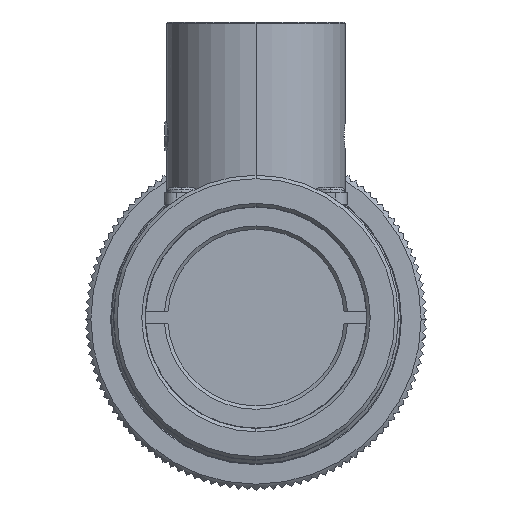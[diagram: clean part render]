
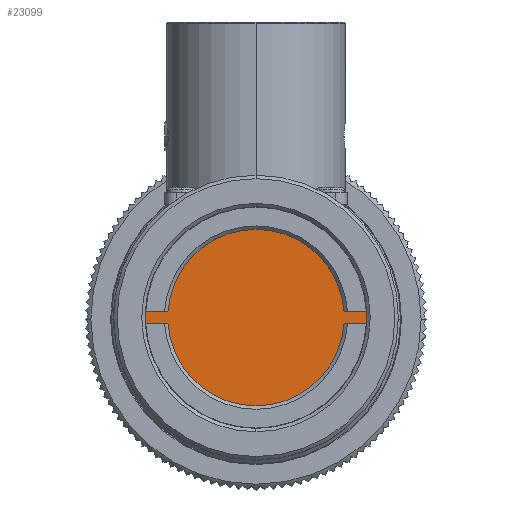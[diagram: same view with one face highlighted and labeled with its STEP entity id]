
A CAD part, top view. The second image highlights one B-rep face of the part: STEP entity #23099.
In plain terms, the highlighted planar face has unit normal (0, 0, 1).
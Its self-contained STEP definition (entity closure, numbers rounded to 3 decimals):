
#2927 = CARTESIAN_POINT ( 'NONE',  ( 9.716, -0.5, 39.397 ) ) ;
#3017 = AXIS2_PLACEMENT_3D ( 'NONE', #3065, #3099, #3098 ) ;
#3065 = CARTESIAN_POINT ( 'NONE',  ( 0., 0., 39.397 ) ) ;
#3098 = DIRECTION ( 'NONE',  ( 1., 0., 0. ) ) ;
#3099 = DIRECTION ( 'NONE',  ( 0., 0., -1. ) ) ;
#3111 = CIRCLE ( 'NONE', #3017, 9.729 ) ;
#3188 = CARTESIAN_POINT ( 'NONE',  ( 9.716, 0.5, 39.397 ) ) ;
#3853 = LINE ( 'NONE', #3901, #3900 ) ;
#3868 = CARTESIAN_POINT ( 'NONE',  ( -9.716, 0.5, 39.397 ) ) ;
#3899 = DIRECTION ( 'NONE',  ( -1., 0., 0. ) ) ;
#3900 = VECTOR ( 'NONE', #3899, 1000. ) ;
#3901 = CARTESIAN_POINT ( 'NONE',  ( -10., -0.5, 39.397 ) ) ;
#3908 = CARTESIAN_POINT ( 'NONE',  ( -7.734, 0.5, 39.397 ) ) ;
#3925 = LINE ( 'NONE', #3960, #3959 ) ;
#3958 = DIRECTION ( 'NONE',  ( 1., 0., 0. ) ) ;
#3959 = VECTOR ( 'NONE', #3958, 1000. ) ;
#3960 = CARTESIAN_POINT ( 'NONE',  ( -10., 0.5, 39.397 ) ) ;
#3969 = CARTESIAN_POINT ( 'NONE',  ( -10., -0.5, 39.397 ) ) ;
#3987 = CARTESIAN_POINT ( 'NONE',  ( 7.734, 0.5, 39.397 ) ) ;
#3993 = DIRECTION ( 'NONE',  ( -1., 0., 0. ) ) ;
#3994 = VECTOR ( 'NONE', #3993, 1000. ) ;
#3995 = LINE ( 'NONE', #3969, #3994 ) ;
#4006 = CARTESIAN_POINT ( 'NONE',  ( -7.734, -0.5, 39.397 ) ) ;
#4008 = CARTESIAN_POINT ( 'NONE',  ( -9.716, -0.5, 39.397 ) ) ;
#4019 = CARTESIAN_POINT ( 'NONE',  ( -10., 0.5, 39.397 ) ) ;
#4038 = CARTESIAN_POINT ( 'NONE',  ( 7.734, -0.5, 39.397 ) ) ;
#4044 = CIRCLE ( 'NONE', #4101, 9.729 ) ;
#4055 = DIRECTION ( 'NONE',  ( 1., 0., 0. ) ) ;
#4056 = VECTOR ( 'NONE', #4055, 1000. ) ;
#4057 = LINE ( 'NONE', #4019, #4056 ) ;
#4070 = CIRCLE ( 'NONE', #4087, 7.75 ) ;
#4073 = DIRECTION ( 'NONE',  ( 1., 0., 0. ) ) ;
#4074 = DIRECTION ( 'NONE',  ( 0., 0., 1. ) ) ;
#4075 = CARTESIAN_POINT ( 'NONE',  ( 0., 0., 39.397 ) ) ;
#4076 = AXIS2_PLACEMENT_3D ( 'NONE', #4075, #4074, #4073 ) ;
#4077 = CIRCLE ( 'NONE', #4076, 7.75 ) ;
#4084 = DIRECTION ( 'NONE',  ( 1., 0., 0. ) ) ;
#4085 = DIRECTION ( 'NONE',  ( 0., 0., 1. ) ) ;
#4086 = CARTESIAN_POINT ( 'NONE',  ( 0., 0., 39.397 ) ) ;
#4087 = AXIS2_PLACEMENT_3D ( 'NONE', #4086, #4085, #4084 ) ;
#4098 = DIRECTION ( 'NONE',  ( 1., 0., 0. ) ) ;
#4099 = DIRECTION ( 'NONE',  ( 0., 0., -1. ) ) ;
#4100 = CARTESIAN_POINT ( 'NONE',  ( 0., 0., 39.397 ) ) ;
#4101 = AXIS2_PLACEMENT_3D ( 'NONE', #4100, #4099, #4098 ) ;
#15341 = FACE_OUTER_BOUND ( 'NONE', #23095, .T. ) ;
#15371 = DIRECTION ( 'NONE',  ( 1., 0., 0. ) ) ;
#15372 = DIRECTION ( 'NONE',  ( 0., 0., 1. ) ) ;
#15373 = CARTESIAN_POINT ( 'NONE',  ( 0., 0., 39.397 ) ) ;
#15378 = AXIS2_PLACEMENT_3D ( 'NONE', #15373, #15372, #15371 ) ;
#15386 = PLANE ( 'NONE',  #15378 ) ;
#17710 = EDGE_CURVE ( 'NONE', #17771, #17775, #3111, .T. ) ;
#17771 = VERTEX_POINT ( 'NONE', #3188 ) ;
#17775 = VERTEX_POINT ( 'NONE', #2927 ) ;
#18097 = EDGE_CURVE ( 'NONE', #17775, #18192, #3853, .T. ) ;
#18098 = VERTEX_POINT ( 'NONE', #3868 ) ;
#18136 = EDGE_CURVE ( 'NONE', #18156, #17771, #3925, .T. ) ;
#18137 = VERTEX_POINT ( 'NONE', #3908 ) ;
#18156 = VERTEX_POINT ( 'NONE', #3987 ) ;
#18167 = VERTEX_POINT ( 'NONE', #4006 ) ;
#18168 = VERTEX_POINT ( 'NONE', #4008 ) ;
#18175 = EDGE_CURVE ( 'NONE', #18167, #18168, #3995, .T. ) ;
#18192 = VERTEX_POINT ( 'NONE', #4038 ) ;
#18199 = EDGE_CURVE ( 'NONE', #18098, #18137, #4057, .T. ) ;
#18212 = EDGE_CURVE ( 'NONE', #18168, #18098, #4044, .T. ) ;
#18215 = EDGE_CURVE ( 'NONE', #18167, #18192, #4070, .T. ) ;
#18222 = EDGE_CURVE ( 'NONE', #18156, #18137, #4077, .T. ) ;
#18339 = ORIENTED_EDGE ( 'NONE', *, *, #18215, .T. ) ;
#18388 = ORIENTED_EDGE ( 'NONE', *, *, #18097, .F. ) ;
#18448 = ORIENTED_EDGE ( 'NONE', *, *, #17710, .F. ) ;
#18556 = ORIENTED_EDGE ( 'NONE', *, *, #18136, .F. ) ;
#18572 = ORIENTED_EDGE ( 'NONE', *, *, #18222, .T. ) ;
#22987 = ORIENTED_EDGE ( 'NONE', *, *, #18212, .F. ) ;
#23095 = EDGE_LOOP ( 'NONE', ( #23098, #22987, #23105, #18339, #18388, #18448, #18556, #18572 ) ) ;
#23098 = ORIENTED_EDGE ( 'NONE', *, *, #18199, .F. ) ;
#23099 = ADVANCED_FACE ( 'NONE', ( #15341 ), #15386, .T. ) ;
#23105 = ORIENTED_EDGE ( 'NONE', *, *, #18175, .F. ) ;
